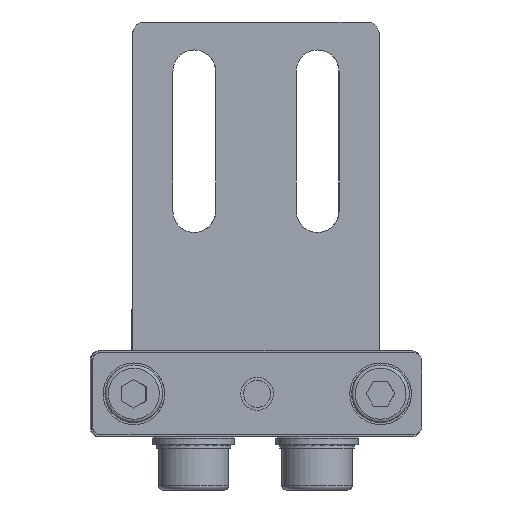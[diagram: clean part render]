
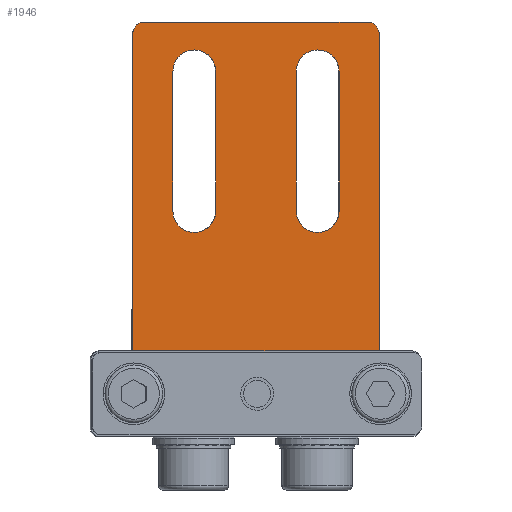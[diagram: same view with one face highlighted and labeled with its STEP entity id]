
A CAD part, left-side view. The second image highlights one B-rep face of the part: STEP entity #1946.
In plain terms, the highlighted planar face has unit normal (-1, -0.004, 0) as drawn and (0, 1, 0) by its records, which use the part's own axes.
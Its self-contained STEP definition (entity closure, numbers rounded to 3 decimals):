
#1946=ADVANCED_FACE('',(#3249,#3250,#3251),#3252,.T.);
#3249=FACE_BOUND('',#8170,.T.);
#3250=FACE_BOUND('',#8171,.T.);
#3251=FACE_OUTER_BOUND('',#8172,.T.);
#3252=PLANE('',#8173);
#8170=EDGE_LOOP('',(#11389,#11390,#11391,#11392));
#8171=EDGE_LOOP('',(#11393,#11394,#11395,#11396));
#8172=EDGE_LOOP('',(#11397,#11398,#11399,#11400,#11401,#11402));
#8173=AXIS2_PLACEMENT_3D('',#11403,#11404,#11405);
#11389=ORIENTED_EDGE('',*,*,#13151,.F.);
#11390=ORIENTED_EDGE('',*,*,#13084,.F.);
#11391=ORIENTED_EDGE('',*,*,#13089,.F.);
#11392=ORIENTED_EDGE('',*,*,#13152,.F.);
#11393=ORIENTED_EDGE('',*,*,#13153,.F.);
#11394=ORIENTED_EDGE('',*,*,#13154,.F.);
#11395=ORIENTED_EDGE('',*,*,#13155,.F.);
#11396=ORIENTED_EDGE('',*,*,#13093,.F.);
#11397=ORIENTED_EDGE('',*,*,#13120,.T.);
#11398=ORIENTED_EDGE('',*,*,#13103,.T.);
#11399=ORIENTED_EDGE('',*,*,#13108,.F.);
#11400=ORIENTED_EDGE('',*,*,#13100,.T.);
#11401=ORIENTED_EDGE('',*,*,#13129,.F.);
#11402=ORIENTED_EDGE('',*,*,#13149,.T.);
#11403=CARTESIAN_POINT('',(0.0,20.0,0.0));
#11404=DIRECTION('',(0.,1.0,0.0));
#11405=DIRECTION('',(1.0,0.,0.0));
#13084=EDGE_CURVE('',#15006,#15007,#15008,.T.);
#13089=EDGE_CURVE('',#15015,#15006,#15016,.T.);
#13093=EDGE_CURVE('',#15021,#15022,#15023,.T.);
#13100=EDGE_CURVE('',#15035,#15033,#15036,.T.);
#13103=EDGE_CURVE('',#15039,#15040,#15041,.T.);
#13108=EDGE_CURVE('',#15035,#15040,#15048,.T.);
#13120=EDGE_CURVE('',#15060,#15039,#15067,.T.);
#13129=EDGE_CURVE('',#15080,#15033,#15082,.T.);
#13149=EDGE_CURVE('',#15080,#15060,#15111,.T.);
#13151=EDGE_CURVE('',#15007,#15113,#15114,.T.);
#13152=EDGE_CURVE('',#15113,#15015,#15115,.T.);
#13153=EDGE_CURVE('',#15116,#15021,#15117,.T.);
#13154=EDGE_CURVE('',#15118,#15116,#15119,.T.);
#13155=EDGE_CURVE('',#15022,#15118,#15120,.T.);
#15006=VERTEX_POINT('',#19230);
#15007=VERTEX_POINT('',#19231);
#15008=CIRCLE('',#19232,2.6);
#15015=VERTEX_POINT('',#19241);
#15016=LINE('',#19242,#19243);
#15021=VERTEX_POINT('',#19250);
#15022=VERTEX_POINT('',#19251);
#15023=CIRCLE('',#19252,2.6);
#15033=VERTEX_POINT('',#19264);
#15035=VERTEX_POINT('',#19267);
#15036=CIRCLE('',#19268,1.5);
#15039=VERTEX_POINT('',#19272);
#15040=VERTEX_POINT('',#19273);
#15041=CIRCLE('',#19274,1.5);
#15048=LINE('',#19283,#19284);
#15060=VERTEX_POINT('',#19299);
#15067=LINE('',#19309,#19310);
#15080=VERTEX_POINT('',#19326);
#15082=LINE('',#19329,#19330);
#15111=LINE('',#19363,#19364);
#15113=VERTEX_POINT('',#19366);
#15114=LINE('',#19367,#19368);
#15115=CIRCLE('',#19369,2.6);
#15116=VERTEX_POINT('',#19370);
#15117=LINE('',#19371,#19372);
#15118=VERTEX_POINT('',#19373);
#15119=CIRCLE('',#19374,2.6);
#15120=LINE('',#19375,#19376);
#19230=CARTESIAN_POINT('',(-4.9,20.0,17.0));
#19231=CARTESIAN_POINT('',(-10.1,20.0,17.0));
#19232=AXIS2_PLACEMENT_3D('',#20890,#20891,#20892);
#19241=CARTESIAN_POINT('',(-4.9,20.0,34.0));
#19242=CARTESIAN_POINT('',(-4.9,20.0,25.3));
#19243=VECTOR('',#20898,1.0);
#19250=CARTESIAN_POINT('',(4.9,20.0,34.0));
#19251=CARTESIAN_POINT('',(10.1,20.0,34.0));
#19252=AXIS2_PLACEMENT_3D('',#20901,#20902,#20903);
#19264=CARTESIAN_POINT('',(15.0,20.0,38.5));
#19267=CARTESIAN_POINT('',(13.5,20.0,40.0));
#19268=AXIS2_PLACEMENT_3D('',#20913,#20914,#20915);
#19272=CARTESIAN_POINT('',(-15.0,20.0,38.5));
#19273=CARTESIAN_POINT('',(-13.5,20.0,40.0));
#19274=AXIS2_PLACEMENT_3D('',#20917,#20918,#20919);
#19283=CARTESIAN_POINT('',(0.,20.0,40.0));
#19284=VECTOR('',#20925,1.0);
#19299=CARTESIAN_POINT('',(-15.0,20.0,0.0));
#19309=CARTESIAN_POINT('',(-15.0,20.0,0.0));
#19310=VECTOR('',#20941,1.0);
#19326=CARTESIAN_POINT('',(15.0,20.0,0.0));
#19329=CARTESIAN_POINT('',(15.0,20.0,0.0));
#19330=VECTOR('',#20952,1.0);
#19363=CARTESIAN_POINT('',(0.0,20.0,0.0));
#19364=VECTOR('',#20984,1.0);
#19366=CARTESIAN_POINT('',(-10.1,20.0,34.0));
#19367=CARTESIAN_POINT('',(-10.1,20.0,25.3));
#19368=VECTOR('',#20985,1.0);
#19369=AXIS2_PLACEMENT_3D('',#20986,#20987,#20988);
#19370=CARTESIAN_POINT('',(4.9,20.0,17.0));
#19371=CARTESIAN_POINT('',(4.9,20.0,25.3));
#19372=VECTOR('',#20989,1.0);
#19373=CARTESIAN_POINT('',(10.1,20.0,17.0));
#19374=AXIS2_PLACEMENT_3D('',#20990,#20991,#20992);
#19375=CARTESIAN_POINT('',(10.1,20.0,25.3));
#19376=VECTOR('',#20993,1.0);
#20890=CARTESIAN_POINT('',(-7.5,20.0,17.0));
#20891=DIRECTION('',(0.,1.0,0.0));
#20892=DIRECTION('',(-1.0,0.,0.0));
#20898=DIRECTION('',(0.,0.,-1.0));
#20901=CARTESIAN_POINT('',(7.5,20.0,34.0));
#20902=DIRECTION('',(0.,1.0,0.0));
#20903=DIRECTION('',(-1.0,0.,0.0));
#20913=CARTESIAN_POINT('',(13.5,20.0,38.5));
#20914=DIRECTION('',(0.0,1.0,0.0));
#20915=DIRECTION('',(-1.0,0.0,0.0));
#20917=CARTESIAN_POINT('',(-13.5,20.0,38.5));
#20918=DIRECTION('',(0.0,1.0,0.0));
#20919=DIRECTION('',(-1.0,0.0,0.0));
#20925=DIRECTION('',(-1.0,0.,0.0));
#20941=DIRECTION('',(0.0,0.0,1.0));
#20952=DIRECTION('',(0.0,0.0,1.0));
#20984=DIRECTION('',(-1.0,0.,0.0));
#20985=DIRECTION('',(0.,0.,1.0));
#20986=CARTESIAN_POINT('',(-7.5,20.0,34.0));
#20987=DIRECTION('',(0.,1.0,0.0));
#20988=DIRECTION('',(-1.0,0.,0.0));
#20989=DIRECTION('',(0.,0.,1.0));
#20990=CARTESIAN_POINT('',(7.5,20.0,17.0));
#20991=DIRECTION('',(0.,1.0,0.0));
#20992=DIRECTION('',(-1.0,0.,0.0));
#20993=DIRECTION('',(0.,0.,-1.0));
